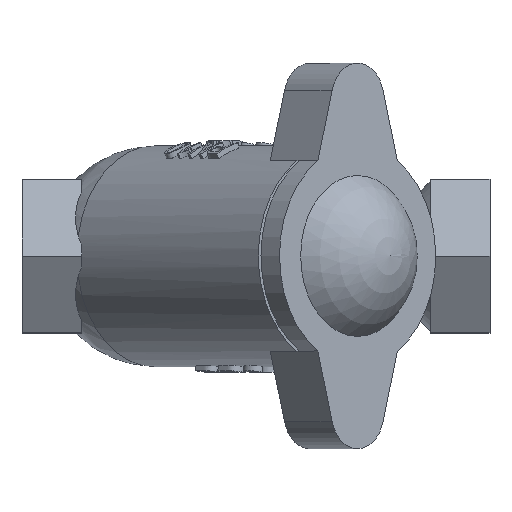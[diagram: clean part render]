
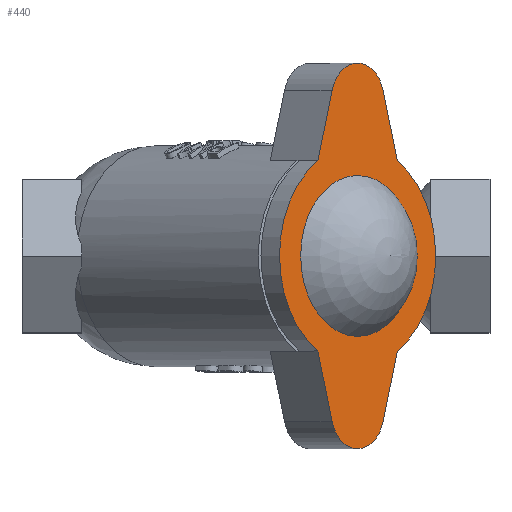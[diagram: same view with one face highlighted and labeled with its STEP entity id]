
A CAD part, top view. The second image highlights one B-rep face of the part: STEP entity #440.
In plain terms, the highlighted planar face has unit normal (0.707, 0, 0.707).
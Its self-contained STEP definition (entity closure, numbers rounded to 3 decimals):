
#440 = ADVANCED_FACE( '', ( #968, #969 ), #970, .F. );
#968 = FACE_OUTER_BOUND( '', #4894, .T. );
#969 = FACE_BOUND( '', #4895, .T. );
#970 = PLANE( '', #4896 );
#4894 = EDGE_LOOP( '', ( #7873, #7874, #7875, #7876, #7877, #7878, #7879, #7880 ) );
#4895 = EDGE_LOOP( '', ( #7881 ) );
#4896 = AXIS2_PLACEMENT_3D( '', #7882, #7883, #7884 );
#7873 = ORIENTED_EDGE( '', *, *, #8859, .F. );
#7874 = ORIENTED_EDGE( '', *, *, #8726, .F. );
#7875 = ORIENTED_EDGE( '', *, *, #8852, .F. );
#7876 = ORIENTED_EDGE( '', *, *, #8576, .F. );
#7877 = ORIENTED_EDGE( '', *, *, #8813, .F. );
#7878 = ORIENTED_EDGE( '', *, *, #8860, .T. );
#7879 = ORIENTED_EDGE( '', *, *, #8431, .T. );
#7880 = ORIENTED_EDGE( '', *, *, #8861, .T. );
#7881 = ORIENTED_EDGE( '', *, *, #8667, .T. );
#7882 = CARTESIAN_POINT( '', ( 11.938, 0., 69.343 ) );
#7883 = DIRECTION( '', ( -0.707, 0., -0.707 ) );
#7884 = DIRECTION( '', ( -0.707, 0., 0.707 ) );
#8431 = EDGE_CURVE( '', #9117, #9118, #9119, .T. );
#8576 = EDGE_CURVE( '', #9379, #9380, #9381, .T. );
#8667 = EDGE_CURVE( '', #9515, #9515, #9516, .T. );
#8726 = EDGE_CURVE( '', #9599, #9600, #9601, .T. );
#8813 = EDGE_CURVE( '', #9705, #9379, #9707, .T. );
#8852 = EDGE_CURVE( '', #9380, #9599, #9754, .T. );
#8859 = EDGE_CURVE( '', #9600, #9761, #9762, .T. );
#8860 = EDGE_CURVE( '', #9705, #9117, #9763, .T. );
#8861 = EDGE_CURVE( '', #9118, #9761, #9764, .T. );
#9117 = VERTEX_POINT( '', #11221 );
#9118 = VERTEX_POINT( '', #11222 );
#9119 = CIRCLE( '', #11223, 10. );
#9379 = VERTEX_POINT( '', #13087 );
#9380 = VERTEX_POINT( '', #13088 );
#9381 = LINE( '', #13089, #13090 );
#9515 = VERTEX_POINT( '', #13831 );
#9516 = CIRCLE( '', #13832, 21.5 );
#9599 = VERTEX_POINT( '', #14144 );
#9600 = VERTEX_POINT( '', #14145 );
#9601 = LINE( '', #14146, #14147 );
#9705 = VERTEX_POINT( '', #14679 );
#9707 = CIRCLE( '', #14682, 29.5 );
#9754 = CIRCLE( '', #14784, 10. );
#9761 = VERTEX_POINT( '', #14793 );
#9762 = CIRCLE( '', #14794, 29.5 );
#9763 = LINE( '', #14795, #14796 );
#9764 = LINE( '', #14797, #14798 );
#11221 = CARTESIAN_POINT( '', ( 33.939, 44.247, 47.341 ) );
#11222 = CARTESIAN_POINT( '', ( 20.341, 44.247, 60.939 ) );
#11223 = AXIS2_PLACEMENT_3D( '', #15075, #15076, #15077 );
#13087 = CARTESIAN_POINT( '', ( 37.747, -25.402, 43.534 ) );
#13088 = CARTESIAN_POINT( '', ( 33.939, -44.247, 47.341 ) );
#13089 = CARTESIAN_POINT( '', ( 33.939, -44.247, 47.341 ) );
#13090 = VECTOR( '', #15118, 1000. );
#13831 = CARTESIAN_POINT( '', ( 11.938, 0., 69.343 ) );
#13832 = AXIS2_PLACEMENT_3D( '', #15137, #15138, #15139 );
#14144 = CARTESIAN_POINT( '', ( 20.341, -44.247, 60.939 ) );
#14145 = CARTESIAN_POINT( '', ( 16.534, -25.402, 64.747 ) );
#14146 = CARTESIAN_POINT( '', ( 20.341, -44.247, 60.939 ) );
#14147 = VECTOR( '', #15176, 1000. );
#14679 = CARTESIAN_POINT( '', ( 37.747, 25.402, 43.534 ) );
#14682 = AXIS2_PLACEMENT_3D( '', #15207, #15208, #15209 );
#14784 = AXIS2_PLACEMENT_3D( '', #15213, #15214, #15215 );
#14793 = CARTESIAN_POINT( '', ( 16.534, 25.402, 64.747 ) );
#14794 = AXIS2_PLACEMENT_3D( '', #15216, #15217, #15218 );
#14795 = CARTESIAN_POINT( '', ( 33.939, 44.247, 47.341 ) );
#14796 = VECTOR( '', #15219, 1000. );
#14797 = CARTESIAN_POINT( '', ( 20.341, 44.247, 60.939 ) );
#14798 = VECTOR( '', #15220, 1000. );
#15075 = CARTESIAN_POINT( '', ( 27.14, 41.5, 54.14 ) );
#15076 = DIRECTION( '', ( 0.707, 0., 0.707 ) );
#15077 = DIRECTION( '', ( 0., -1., 0. ) );
#15118 = DIRECTION( '', ( -0.194, -0.962, 0.194 ) );
#15137 = CARTESIAN_POINT( '', ( 27.14, 0., 54.14 ) );
#15138 = DIRECTION( '', ( -0.707, 0., -0.707 ) );
#15139 = DIRECTION( '', ( -0.707, 0., 0.707 ) );
#15176 = DIRECTION( '', ( -0.194, 0.962, 0.194 ) );
#15207 = CARTESIAN_POINT( '', ( 27.14, 0., 54.14 ) );
#15208 = DIRECTION( '', ( -0.707, 0., -0.707 ) );
#15209 = DIRECTION( '', ( -0.707, 0., 0.707 ) );
#15213 = CARTESIAN_POINT( '', ( 27.14, -41.5, 54.14 ) );
#15214 = DIRECTION( '', ( -0.707, 0., -0.707 ) );
#15215 = DIRECTION( '', ( 0., 1., 0. ) );
#15216 = CARTESIAN_POINT( '', ( 27.14, 0., 54.14 ) );
#15217 = DIRECTION( '', ( -0.707, 0., -0.707 ) );
#15218 = DIRECTION( '', ( -0.707, 0., 0.707 ) );
#15219 = DIRECTION( '', ( -0.194, 0.962, 0.194 ) );
#15220 = DIRECTION( '', ( -0.194, -0.962, 0.194 ) );
